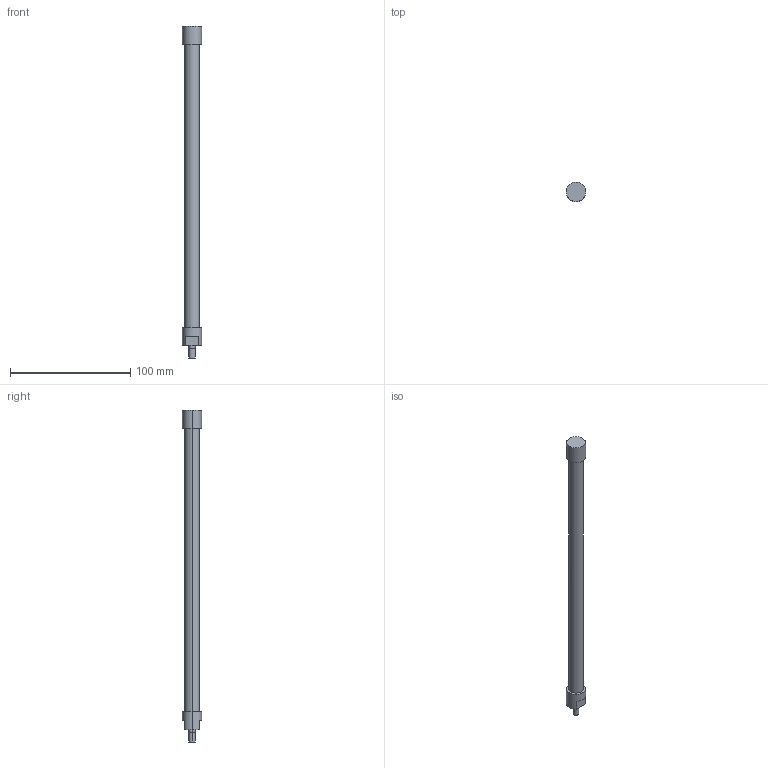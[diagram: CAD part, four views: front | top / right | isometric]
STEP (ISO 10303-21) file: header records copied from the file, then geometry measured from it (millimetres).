
FILE_DESCRIPTION(('STEP AP214'),'1');
FILE_NAME('ETT-R025M275.stp','2015-02-04T08:07:46',(' '),(' '),'Spatial InterOp 3D',' ',' ');
FILE_SCHEMA(('automotive_design'));
Length unit declared in the file: metre
Products named in the file (2): 1; 2
Bounding box: 16 x 16 x 276 mm (x, y, z)
Volume: 15961.2 mm3; surface area: 17506.7 mm2
Topology: 1 solids, 5 shells, 24 faces, 56 edges, 42 vertices
Faces by surface type: cylinder 12, plane 12
Entity records: 952 total; most frequent: DIRECTION 142, CARTESIAN_POINT 124, ORIENTED_EDGE 100, AXIS2_PLACEMENT_3D 60, EDGE_CURVE 56, VERTEX_POINT 42, CIRCLE 34, EDGE_LOOP 28
